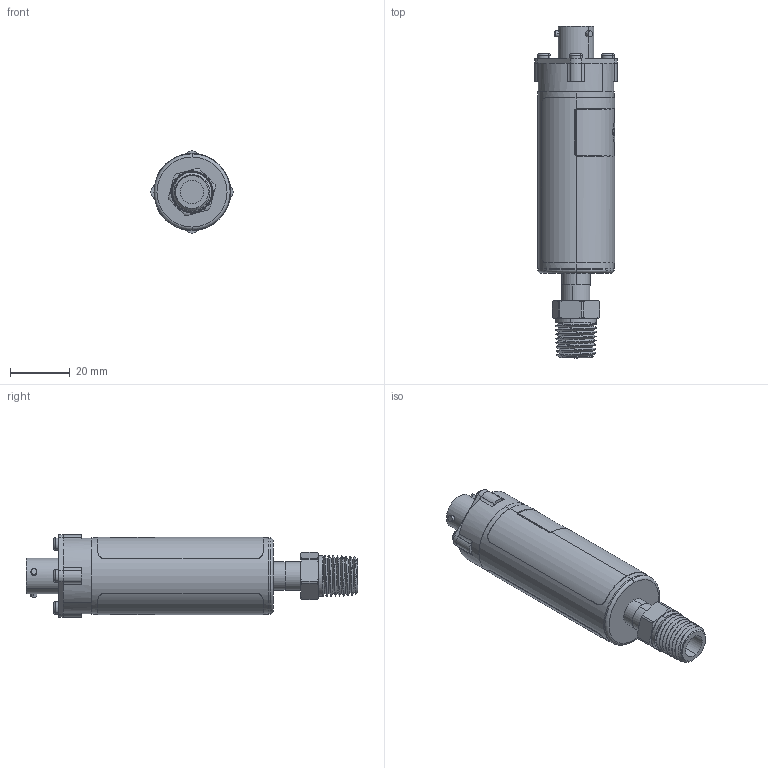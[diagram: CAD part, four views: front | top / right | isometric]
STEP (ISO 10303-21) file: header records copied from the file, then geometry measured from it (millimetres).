
FILE_DESCRIPTION (( 'STEP AP203' ), '1' );
FILE_NAME ('GSD-XXXXXX-B-XXX-NT.STEP', '2025-06-25T14:47:57', ( '' ), ( '' ), 'SwSTEP 2.0', 'SolidWorks 2023', '' );
FILE_SCHEMA (( 'CONFIG_CONTROL_DESIGN' ));
Length unit declared in the file: inch
Products named in the file (4): GSx Body_Integrated Connector; GS B; GSD-XXXXXX-B-XXX-NT; 315Z103
Assembly tree (3 placements, depth 2):
  GSD-XXXXXX-B-XXX-NT
    GSx Body_Integrated Connector
    GS B
    315Z103
Bounding box: 27.43 x 110.93 x 27.43 mm (x, y, z)
Volume: 15551.1 mm3; surface area: 17514.9 mm2
Topology: 9 solids, 9 shells, 405 faces, 1006 edges, 656 vertices
Faces by surface type: plane 171, cylinder 139, bspline 41, cone 34, torus 20
Entity records: 21817 total; most frequent: CARTESIAN_POINT 11929, ORIENTED_EDGE 2012, DIRECTION 1888, EDGE_CURVE 1006, AXIS2_PLACEMENT_3D 716, VERTEX_POINT 656, EDGE_LOOP 456, LINE 456
